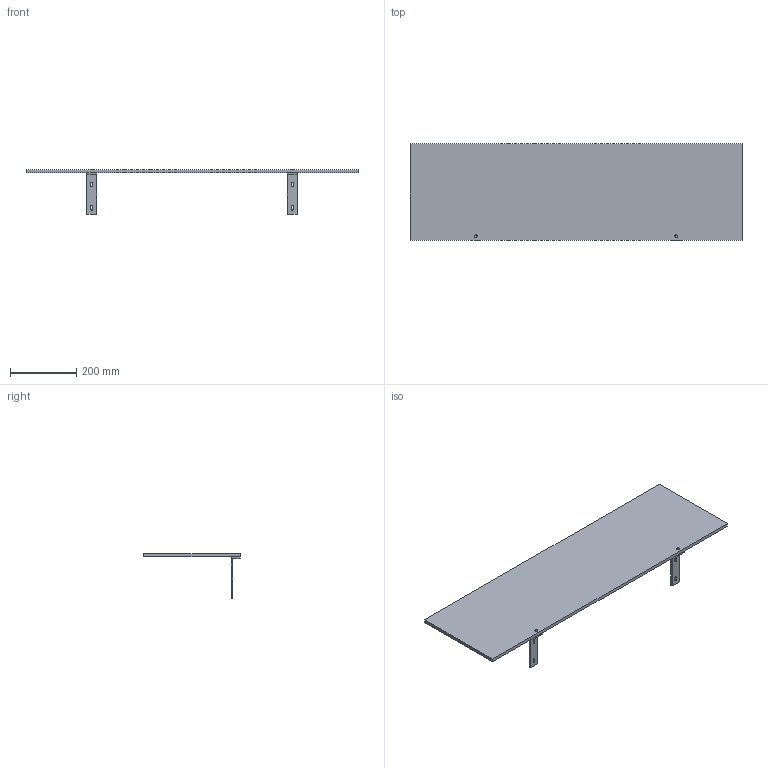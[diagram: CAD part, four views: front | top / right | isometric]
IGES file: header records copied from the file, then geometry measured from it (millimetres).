
Start section: SolidWorks IGES file using NURBS representation for surfaces
Global section: file name: G:\VICCARBE\PRODUCTOS\12-LEG-IN\04-MODELADOS (PLANOS)\SOLIDWORKS\LEG_IN 2011\ENSAMBLAJES\Mesas 3D\IGES\ACCESORIES\VICCARBE_LEDIV.IGS; native system: SolidWorks 2009; preprocessor: SolidWorks 2009; author: RUBEN; date: 111024.104409; units: millimetre
Bounding box: 1000 x 290 x 135 mm (x, y, z)
Surface area: 627437.5 mm2 (no closed solid volume)
Topology: 0 solids, 0 shells, 50 faces, 736 edges, 736 vertices
Faces by surface type: bspline 50
